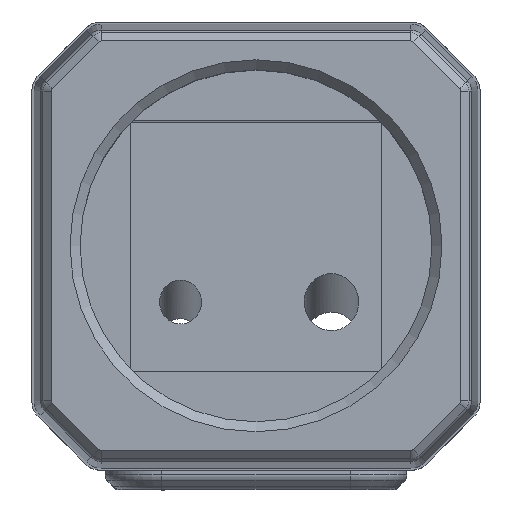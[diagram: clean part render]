
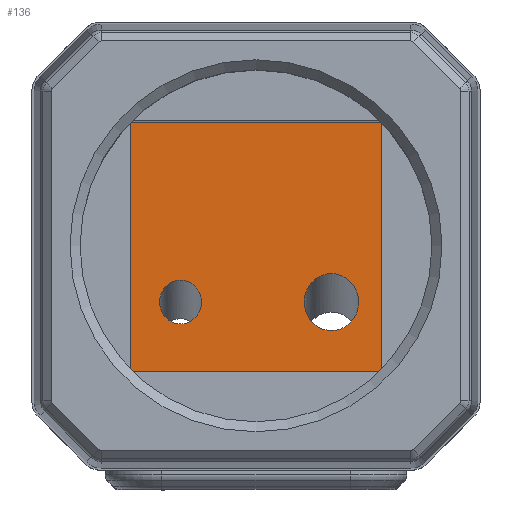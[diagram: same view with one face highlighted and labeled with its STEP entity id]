
A CAD part, top view. The second image highlights one B-rep face of the part: STEP entity #136.
In plain terms, the highlighted planar face has unit normal (0, 0, 1).
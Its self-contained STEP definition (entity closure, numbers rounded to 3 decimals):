
#136 = ADVANCED_FACE ( 'NONE', ( #2759, #5412, #4870 ), #1700, .F. ) ;
#264 = CARTESIAN_POINT ( 'NONE',  ( 0., 0., -148.8 ) ) ;
#270 = EDGE_LOOP ( 'NONE', ( #4772 ) ) ;
#428 = CARTESIAN_POINT ( 'NONE',  ( 2.5, -9.883, -148.8 ) ) ;
#490 = CARTESIAN_POINT ( 'NONE',  ( -15., 15., -148.8 ) ) ;
#539 = CARTESIAN_POINT ( 'NONE',  ( 9., -9.883, -148.8 ) ) ;
#815 = AXIS2_PLACEMENT_3D ( 'NONE', #264, #1728, #1674 ) ;
#831 = CARTESIAN_POINT ( 'NONE',  ( 15., 15., -148.8 ) ) ;
#997 = LINE ( 'NONE', #4106, #4546 ) ;
#1022 = CARTESIAN_POINT ( 'NONE',  ( 9., -9.883, -148.8 ) ) ;
#1250 = CARTESIAN_POINT ( 'NONE',  ( 15., 15., -148.8 ) ) ;
#1440 = VECTOR ( 'NONE', #2637, 1000. ) ;
#1492 = EDGE_LOOP ( 'NONE', ( #3196 ) ) ;
#1512 = CARTESIAN_POINT ( 'NONE',  ( -9., -3.87, -148.8 ) ) ;
#1674 = DIRECTION ( 'NONE',  ( -1., 0., 0. ) ) ;
#1694 = CARTESIAN_POINT ( 'NONE',  ( -14., -9.098, -148.8 ) ) ;
#1700 = PLANE ( 'NONE',  #815 ) ;
#1728 = DIRECTION ( 'NONE',  ( 0., 0., -1. ) ) ;
#2014 = LINE ( 'NONE', #3981, #4229 ) ;
#2231 = CARTESIAN_POINT ( 'NONE',  ( -15., -15., -148.8 ) ) ;
#2626 = CARTESIAN_POINT ( 'NONE',  ( -9., -9.098, -148.8 ) ) ;
#2637 = DIRECTION ( 'NONE',  ( -1., 0., 0. ) ) ;
#2711 = EDGE_CURVE ( 'NONE', #3744, #3703, #4174, .T. ) ;
#2715 = CARTESIAN_POINT ( 'NONE',  ( 15., -15., -148.8 ) ) ;
#2759 = FACE_BOUND ( 'NONE', #1492, .T. ) ;
#2860 = DIRECTION ( 'NONE',  ( 0., 1., 0. ) ) ;
#2921 = CARTESIAN_POINT ( 'NONE',  ( -9., -9.098, -148.8 ) ) ;
#2942 = DIRECTION ( 'NONE',  ( 0., -1., 0. ) ) ;
#3044 = CARTESIAN_POINT ( 'NONE',  ( -9., -9.098, -148.8 ) ) ;
#3058 = ORIENTED_EDGE ( 'NONE', *, *, #4496, .T. ) ;
#3065 = VECTOR ( 'NONE', #3848, 1000. ) ;
#3196 = ORIENTED_EDGE ( 'NONE', *, *, #5373, .T. ) ;
#3351 = CARTESIAN_POINT ( 'NONE',  ( 15., -15., -148.8 ) ) ;
#3458 = ORIENTED_EDGE ( 'NONE', *, *, #5286, .T. ) ;
#3491 = EDGE_CURVE ( 'NONE', #3833, #3833, #4818, .T. ) ;
#3636 = CARTESIAN_POINT ( 'NONE',  ( 9., -9.883, -148.8 ) ) ;
#3700 = EDGE_CURVE ( 'NONE', #3746, #3891, #4481, .T. ) ;
#3703 = VERTEX_POINT ( 'NONE', #2715 ) ;
#3744 = VERTEX_POINT ( 'NONE', #2231 ) ;
#3746 = VERTEX_POINT ( 'NONE', #831 ) ;
#3833 = VERTEX_POINT ( 'NONE', #1022 ) ;
#3848 = DIRECTION ( 'NONE',  ( 1., 0., 0. ) ) ;
#3853 = CARTESIAN_POINT ( 'NONE',  ( 2.5, -3.086, -148.8 ) ) ;
#3891 = VERTEX_POINT ( 'NONE', #490 ) ;
#3981 = CARTESIAN_POINT ( 'NONE',  ( -15., 15., -148.8 ) ) ;
#4106 = CARTESIAN_POINT ( 'NONE',  ( 15., 15., -148.8 ) ) ;
#4174 = LINE ( 'NONE', #3351, #3065 ) ;
#4206 = CARTESIAN_POINT ( 'NONE',  ( 9., -3.086, -148.8 ) ) ;
#4229 = VECTOR ( 'NONE', #2942, 1000. ) ;
#4481 = LINE ( 'NONE', #1250, #1440 ) ;
#4492 = ORIENTED_EDGE ( 'NONE', *, *, #3700, .T. ) ;
#4496 = EDGE_CURVE ( 'NONE', #3891, #3744, #2014, .T. ) ;
#4546 = VECTOR ( 'NONE', #2860, 1000. ) ;
#4591 = ORIENTED_EDGE ( 'NONE', *, *, #2711, .T. ) ;
#4772 = ORIENTED_EDGE ( 'NONE', *, *, #3491, .T. ) ;
#4818 =( BOUNDED_CURVE ( )  B_SPLINE_CURVE ( 3, ( #3636, #428, #3853, #4206, #5177, #5635, #539 ),
 .UNSPECIFIED., .T., .T. ) 
 B_SPLINE_CURVE_WITH_KNOTS ( ( 4, 3, 4 ),
 ( 0., 3.142, 6.283 ),
 .UNSPECIFIED. ) 
 CURVE ( )  GEOMETRIC_REPRESENTATION_ITEM ( )  RATIONAL_B_SPLINE_CURVE ( ( 1., 0.333, 0.333, 1., 0.333, 0.333, 1. ) ) 
 REPRESENTATION_ITEM ( '' )  );
#4870 = FACE_OUTER_BOUND ( 'NONE', #5931, .T. ) ;
#5177 = CARTESIAN_POINT ( 'NONE',  ( 15.5, -3.086, -148.8 ) ) ;
#5222 = VERTEX_POINT ( 'NONE', #2921 ) ;
#5286 = EDGE_CURVE ( 'NONE', #3703, #3746, #997, .T. ) ;
#5373 = EDGE_CURVE ( 'NONE', #5222, #5222, #5858, .T. ) ;
#5412 = FACE_BOUND ( 'NONE', #270, .T. ) ;
#5635 = CARTESIAN_POINT ( 'NONE',  ( 15.5, -9.883, -148.8 ) ) ;
#5653 = CARTESIAN_POINT ( 'NONE',  ( -4., -9.098, -148.8 ) ) ;
#5805 = CARTESIAN_POINT ( 'NONE',  ( -4., -3.87, -148.8 ) ) ;
#5856 = CARTESIAN_POINT ( 'NONE',  ( -14., -3.87, -148.8 ) ) ;
#5858 =( BOUNDED_CURVE ( )  B_SPLINE_CURVE ( 3, ( #3044, #1694, #5856, #1512, #5805, #5653, #2626 ),
 .UNSPECIFIED., .T., .F. ) 
 B_SPLINE_CURVE_WITH_KNOTS ( ( 4, 3, 4 ),
 ( 0., 3.142, 6.283 ),
 .UNSPECIFIED. ) 
 CURVE ( )  GEOMETRIC_REPRESENTATION_ITEM ( )  RATIONAL_B_SPLINE_CURVE ( ( 1., 0.333, 0.333, 1., 0.333, 0.333, 1. ) ) 
 REPRESENTATION_ITEM ( '' )  );
#5931 = EDGE_LOOP ( 'NONE', ( #3058, #4591, #3458, #4492 ) ) ;
